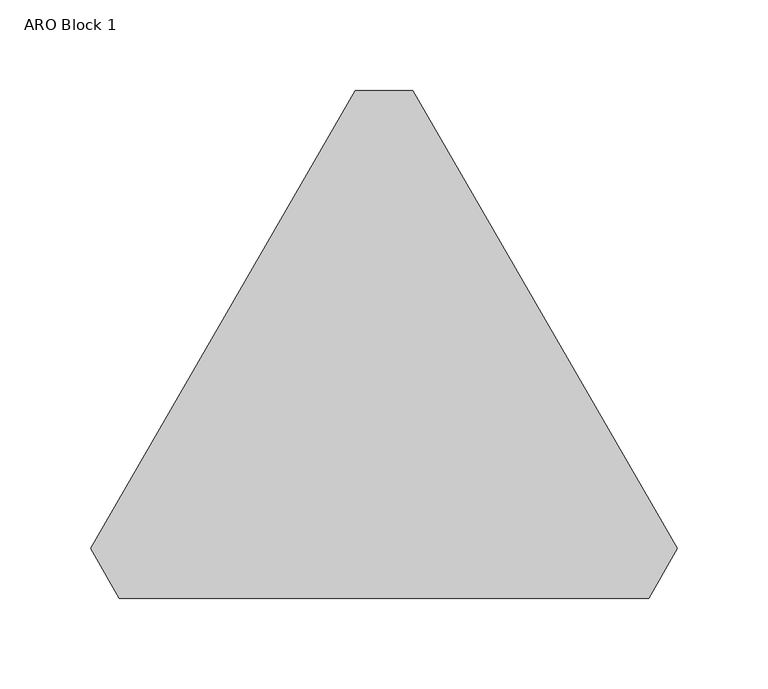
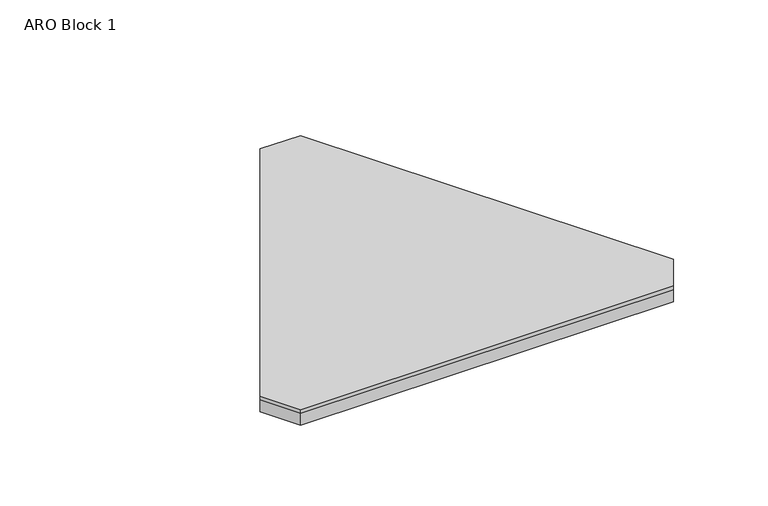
"""IFC4 building model written with IfcOpenShell, lengths in millimetres: proxy geometry, FilzFelt_ARO_Block 1 : ARO Block 1."""

from ifc_helpers import new_model, si_unit, frame, origin, origin_with_axes, place, context, project, spatial, polyline, outline, extrude, source, transform, mapped, element, save


def aro_block_1_febfece8(model_context):
    return source(origin(), model_context, "Body", "SweptSolid", [
        extrude(outline(polyline([(146.05, -102.6528779), (-146.05, -102.6528779), (-161.925, -75.1565713), (-15.875, 177.8094492), (15.875, 177.8094492), (161.925, -75.1565713), (146.05, -102.6528779)])), frame((0.0, 0.0, 10.0210937), z_axis=(0.0, 0.0, 1.0), x_axis=(1.0, 0.0, 0.0)), (0.0, 0.0, 1.0), 2.9765625),
        extrude(outline(polyline([(15.875, 177.8094492), (161.925, -75.1565713), (146.05, -102.6528779), (-146.05, -102.6528779), (-161.925, -75.1565713), (-15.875, 177.8094492), (15.875, 177.8094492)])), origin_with_axes(), (0.0, 0.0, 1.0), 10.0210938),
    ])


if __name__ == "__main__":
    model = new_model("IFC4")
    model_context = context("Model", 3, world=origin())
    ifc_project = project(units=[si_unit("LENGTHUNIT", "METRE", prefix="MILLI")], contexts=[model_context])
    site = spatial("IfcSite", under=ifc_project)
    building = spatial("IfcBuilding", under=site)
    placement = place(None, origin())
    aro_block_1_shape = aro_block_1_febfece8(model_context)
    element("IfcBuildingElementProxy", 1, Name="FilzFelt_ARO_Block 1 : ARO Block 1", ObjectType="FilzFelt_ARO_Block 1 : ARO Block 1", at=placement, inside=building, context=model_context, shape_type="MappedRepresentation", body=[
        mapped(aro_block_1_shape, transform((0.0, 0.0, 0.0), x_axis=(1.0, 0.0, 0.0), y_axis=(0.0, 1.0, 0.0), z_axis=(0.0, 0.0, 1.0))),
    ])
    save(model, "model.ifc")
